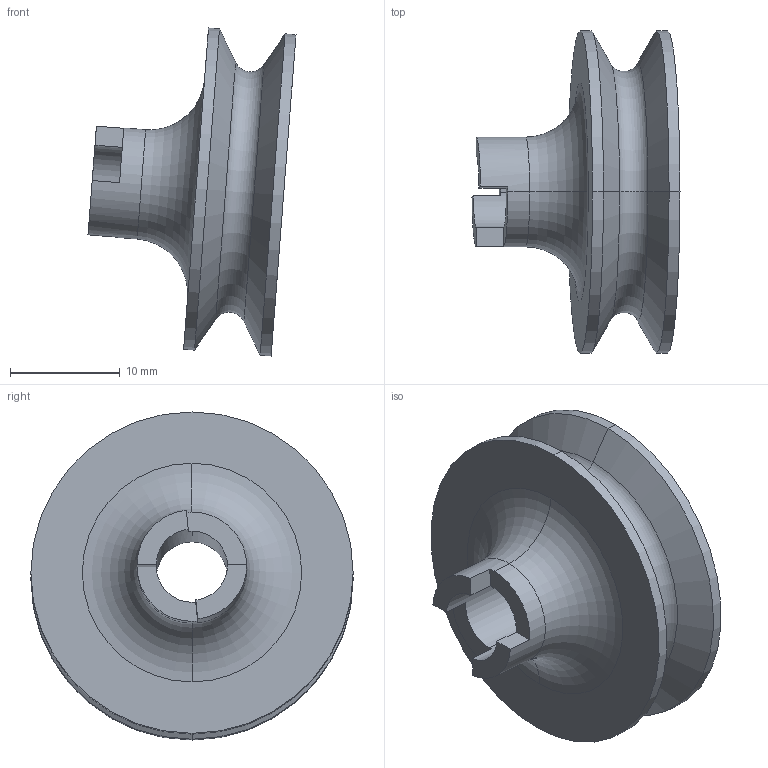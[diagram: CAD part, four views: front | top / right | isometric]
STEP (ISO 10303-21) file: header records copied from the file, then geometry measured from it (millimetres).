
FILE_DESCRIPTION((''),'2;1');
FILE_NAME('0000237224_PRT','2025-11-12T18:36:41',('Wyndorps'),(''),'CREO PARAMETRIC BY PTC INC, 2025010','CREO PARAMETRIC BY PTC INC, 2025010','');
FILE_SCHEMA(('CONFIG_CONTROL_DESIGN'));
Length unit declared in the file: millimetre
Products named in the file (1): 0000237224_PRT
Bounding box: 18.97 x 29.39 x 29.92 mm (x, y, z)
Volume: 4242 mm3; surface area: 2872.2 mm2
Topology: 1 solids, 1 shells, 29 faces, 68 edges, 42 vertices
Faces by surface type: plane 11, cylinder 10, cone 4, torus 4
Entity records: 882 total; most frequent: DIRECTION 164, CARTESIAN_POINT 139, ORIENTED_EDGE 136, EDGE_CURVE 68, AXIS2_PLACEMENT_3D 67, VERTEX_POINT 42, CIRCLE 38, EDGE_LOOP 32
